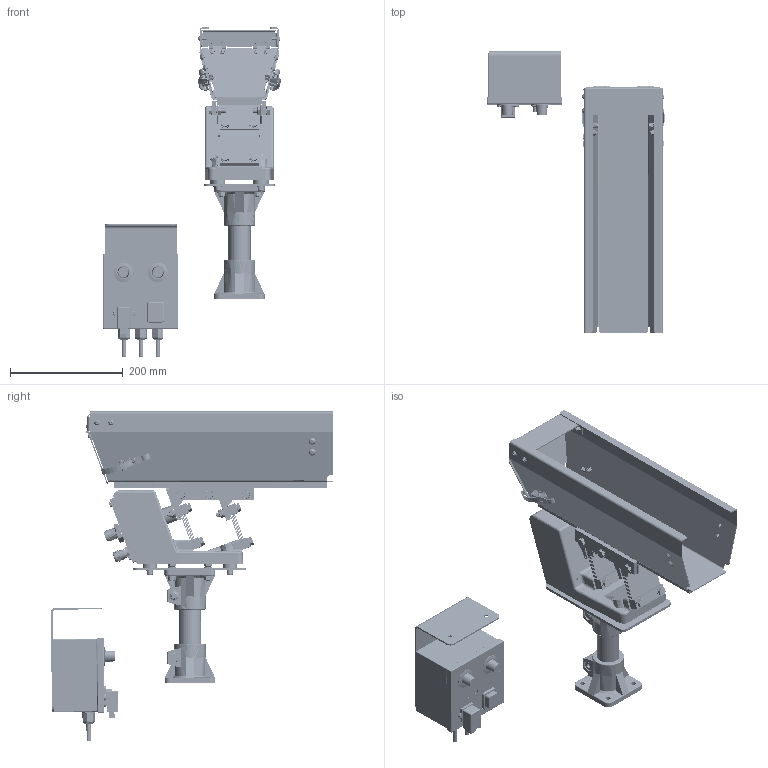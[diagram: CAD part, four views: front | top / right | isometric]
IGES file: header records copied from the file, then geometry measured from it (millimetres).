
Start section: SolidWorks IGES file using analytic representation for surfaces
Global section: file name: C:\Users\ufficiotecnico\OneDrive - Ars Srl\Desktop\Bulk Feeder 20 lt\Bulk feeder 5lt V2.0.IGS; native system: SolidWorks 2020; preprocessor: SolidWorks 2020; author: ufficiotecnico; date: 211116.154442; units: millimetre
Bounding box: 315.2 x 500.15 x 583.57 mm (x, y, z)
Surface area: 1179065.3 mm2 (no closed solid volume)
Topology: 0 solids, 0 shells, 9257 faces, 90373 edges, 89992 vertices
Faces by surface type: revolution 7305, bspline 1952
